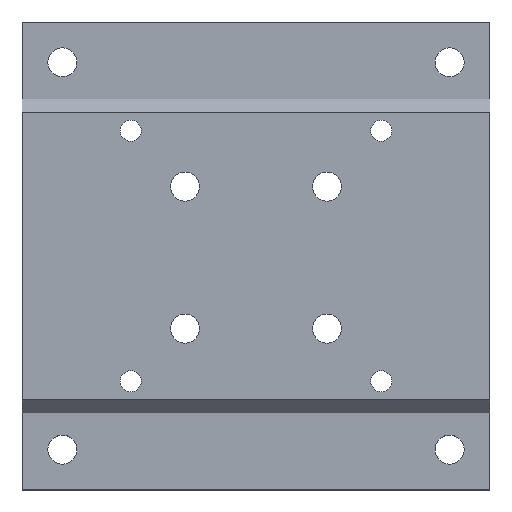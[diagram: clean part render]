
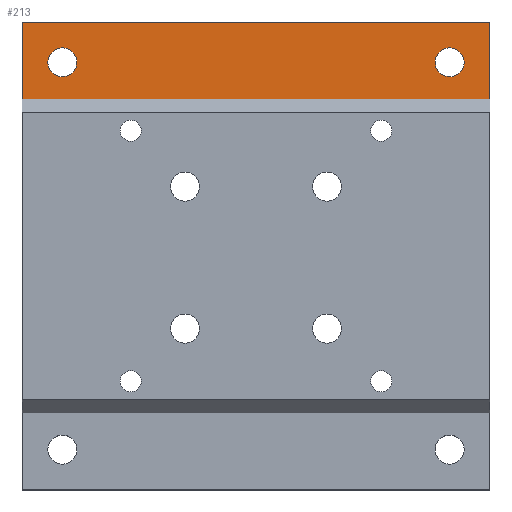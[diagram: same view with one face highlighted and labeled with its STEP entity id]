
A CAD part, top view. The second image highlights one B-rep face of the part: STEP entity #213.
In plain terms, the highlighted planar face has unit normal (0, 0, 1).
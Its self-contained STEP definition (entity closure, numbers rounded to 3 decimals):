
#10 = PLANE ( 'NONE',  #1257 ) ;
#37 = EDGE_LOOP ( 'NONE', ( #244, #1393 ) ) ;
#62 = VERTEX_POINT ( 'NONE', #972 ) ;
#72 = CIRCLE ( 'NONE', #1558, 4.5 ) ;
#122 = CIRCLE ( 'NONE', #876, 4.5 ) ;
#137 = VERTEX_POINT ( 'NONE', #250 ) ;
#168 = DIRECTION ( 'NONE',  ( 0., -1., 0. ) ) ;
#175 = VERTEX_POINT ( 'NONE', #266 ) ;
#182 = CIRCLE ( 'NONE', #1660, 4.5 ) ;
#184 = EDGE_CURVE ( 'NONE', #826, #137, #1074, .T. ) ;
#185 = CARTESIAN_POINT ( 'NONE',  ( 132.5, 137., 7. ) ) ;
#193 = DIRECTION ( 'NONE',  ( 0., -1., 0. ) ) ;
#213 = ADVANCED_FACE ( 'NONE', ( #1250, #927, #704 ), #10, .T. ) ;
#244 = ORIENTED_EDGE ( 'NONE', *, *, #1361, .F. ) ;
#250 = CARTESIAN_POINT ( 'NONE',  ( 145., 145., 7. ) ) ;
#266 = CARTESIAN_POINT ( 'NONE',  ( 12.5, 137., 7. ) ) ;
#319 = LINE ( 'NONE', #1347, #795 ) ;
#327 = CARTESIAN_POINT ( 'NONE',  ( 12.5, 132.5, 7. ) ) ;
#328 = EDGE_LOOP ( 'NONE', ( #774, #1337, #806, #518 ) ) ;
#363 = AXIS2_PLACEMENT_3D ( 'NONE', #1240, #1094, #675 ) ;
#421 = VERTEX_POINT ( 'NONE', #604 ) ;
#427 = VERTEX_POINT ( 'NONE', #185 ) ;
#437 = DIRECTION ( 'NONE',  ( 1., 0., 0. ) ) ;
#518 = ORIENTED_EDGE ( 'NONE', *, *, #1627, .T. ) ;
#523 = DIRECTION ( 'NONE',  ( 0., -1., 0. ) ) ;
#541 = DIRECTION ( 'NONE',  ( 0., -1., 0. ) ) ;
#582 = ORIENTED_EDGE ( 'NONE', *, *, #1839, .F. ) ;
#601 = CARTESIAN_POINT ( 'NONE',  ( 12.5, 128., 7. ) ) ;
#604 = CARTESIAN_POINT ( 'NONE',  ( 132.5, 128., 7. ) ) ;
#607 = EDGE_CURVE ( 'NONE', #421, #427, #1246, .T. ) ;
#672 = EDGE_CURVE ( 'NONE', #826, #1795, #1301, .T. ) ;
#675 = DIRECTION ( 'NONE',  ( 0., -1., 0. ) ) ;
#684 = CARTESIAN_POINT ( 'NONE',  ( 132.5, 132.5, 7. ) ) ;
#704 = FACE_OUTER_BOUND ( 'NONE', #328, .T. ) ;
#708 = VECTOR ( 'NONE', #168, 1000. ) ;
#774 = ORIENTED_EDGE ( 'NONE', *, *, #850, .F. ) ;
#784 = EDGE_LOOP ( 'NONE', ( #1006, #582 ) ) ;
#795 = VECTOR ( 'NONE', #1203, 1000. ) ;
#806 = ORIENTED_EDGE ( 'NONE', *, *, #672, .T. ) ;
#826 = VERTEX_POINT ( 'NONE', #1589 ) ;
#850 = EDGE_CURVE ( 'NONE', #137, #62, #1436, .T. ) ;
#856 = DIRECTION ( 'NONE',  ( 0., 0., 1. ) ) ;
#876 = AXIS2_PLACEMENT_3D ( 'NONE', #684, #856, #541 ) ;
#924 = VERTEX_POINT ( 'NONE', #601 ) ;
#927 = FACE_BOUND ( 'NONE', #784, .T. ) ;
#972 = CARTESIAN_POINT ( 'NONE',  ( 145., 121.139, 7. ) ) ;
#1006 = ORIENTED_EDGE ( 'NONE', *, *, #1101, .F. ) ;
#1074 = LINE ( 'NONE', #1268, #1161 ) ;
#1094 = DIRECTION ( 'NONE',  ( 0., 0., 1. ) ) ;
#1101 = EDGE_CURVE ( 'NONE', #175, #924, #182, .T. ) ;
#1130 = CARTESIAN_POINT ( 'NONE',  ( 12.5, 132.5, 7. ) ) ;
#1161 = VECTOR ( 'NONE', #437, 1000. ) ;
#1199 = DIRECTION ( 'NONE',  ( 0., 0., 1. ) ) ;
#1203 = DIRECTION ( 'NONE',  ( 1., 0., 0. ) ) ;
#1240 = CARTESIAN_POINT ( 'NONE',  ( 132.5, 132.5, 7. ) ) ;
#1246 = CIRCLE ( 'NONE', #363, 4.5 ) ;
#1250 = FACE_BOUND ( 'NONE', #37, .T. ) ;
#1257 = AXIS2_PLACEMENT_3D ( 'NONE', #1423, #1578, #1709 ) ;
#1268 = CARTESIAN_POINT ( 'NONE',  ( 0., 145., 7. ) ) ;
#1301 = LINE ( 'NONE', #1372, #1645 ) ;
#1337 = ORIENTED_EDGE ( 'NONE', *, *, #184, .F. ) ;
#1347 = CARTESIAN_POINT ( 'NONE',  ( 0., 121.139, 7. ) ) ;
#1361 = EDGE_CURVE ( 'NONE', #427, #421, #122, .T. ) ;
#1372 = CARTESIAN_POINT ( 'NONE',  ( 0., 145., 7. ) ) ;
#1393 = ORIENTED_EDGE ( 'NONE', *, *, #607, .F. ) ;
#1401 = DIRECTION ( 'NONE',  ( 0., 0., 1. ) ) ;
#1416 = DIRECTION ( 'NONE',  ( 0., -1., 0. ) ) ;
#1423 = CARTESIAN_POINT ( 'NONE',  ( 0., 145., 7. ) ) ;
#1436 = LINE ( 'NONE', #1706, #708 ) ;
#1558 = AXIS2_PLACEMENT_3D ( 'NONE', #1130, #1401, #1416 ) ;
#1578 = DIRECTION ( 'NONE',  ( 0., 0., 1. ) ) ;
#1589 = CARTESIAN_POINT ( 'NONE',  ( 0., 145., 7. ) ) ;
#1627 = EDGE_CURVE ( 'NONE', #1795, #62, #319, .T. ) ;
#1645 = VECTOR ( 'NONE', #523, 1000. ) ;
#1660 = AXIS2_PLACEMENT_3D ( 'NONE', #327, #1199, #193 ) ;
#1678 = CARTESIAN_POINT ( 'NONE',  ( 0., 121.139, 7. ) ) ;
#1706 = CARTESIAN_POINT ( 'NONE',  ( 145., 145., 7. ) ) ;
#1709 = DIRECTION ( 'NONE',  ( 0., -1., 0. ) ) ;
#1795 = VERTEX_POINT ( 'NONE', #1678 ) ;
#1839 = EDGE_CURVE ( 'NONE', #924, #175, #72, .T. ) ;
